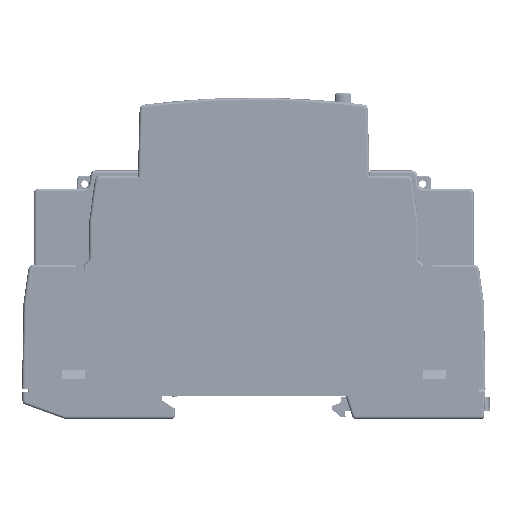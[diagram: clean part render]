
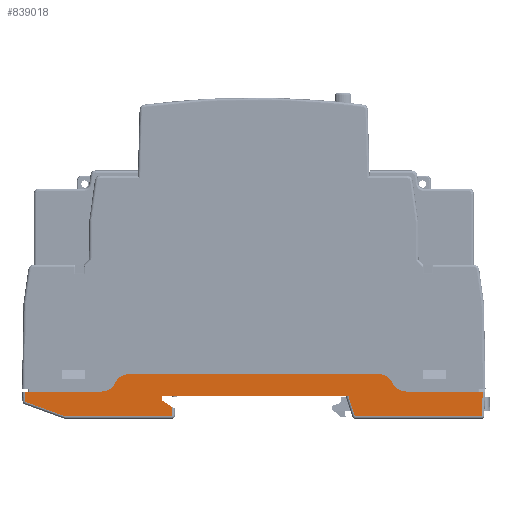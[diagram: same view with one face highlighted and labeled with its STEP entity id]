
A CAD part, left-side view. The second image highlights one B-rep face of the part: STEP entity #839018.
In plain terms, the highlighted planar face has unit normal (-1, 0, 0).
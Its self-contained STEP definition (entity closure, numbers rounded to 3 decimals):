
#26333=CIRCLE('',#889811,3.);
#26334=CIRCLE('',#889812,3.);
#26335=CIRCLE('',#889813,3.);
#26336=CIRCLE('',#889814,3.);
#73931=FACE_OUTER_BOUND('',#121422,.T.);
#121422=EDGE_LOOP('',(#563656,#563657,#563658,#563659,#563660,#563661,#563662,
#563663,#563664,#563665,#563666,#563667,#563668,#563669,#563670,#563671,
#563672));
#173633=LINE('',#1221705,#261654);
#173636=LINE('',#1221716,#261657);
#173639=LINE('',#1221725,#261660);
#173640=LINE('',#1221731,#261661);
#173641=LINE('',#1221737,#261662);
#173642=LINE('',#1221739,#261663);
#173643=LINE('',#1221741,#261664);
#173644=LINE('',#1221743,#261665);
#173645=LINE('',#1221745,#261666);
#173646=LINE('',#1221747,#261667);
#173647=LINE('',#1221749,#261668);
#173648=LINE('',#1221751,#261669);
#173649=LINE('',#1221752,#261670);
#261654=VECTOR('',#969964,10.);
#261657=VECTOR('',#969977,10.);
#261660=VECTOR('',#969986,10.);
#261661=VECTOR('',#969991,10.);
#261662=VECTOR('',#969996,10.);
#261663=VECTOR('',#969997,10.);
#261664=VECTOR('',#969998,10.);
#261665=VECTOR('',#969999,10.);
#261666=VECTOR('',#970000,10.);
#261667=VECTOR('',#970001,10.);
#261668=VECTOR('',#970002,10.);
#261669=VECTOR('',#970003,10.);
#261670=VECTOR('',#970004,10.);
#349529=VERTEX_POINT('',#1221698);
#349531=VERTEX_POINT('',#1221703);
#349533=VERTEX_POINT('',#1221709);
#349537=VERTEX_POINT('',#1221724);
#349538=VERTEX_POINT('',#1221726);
#349539=VERTEX_POINT('',#1221728);
#349540=VERTEX_POINT('',#1221730);
#349541=VERTEX_POINT('',#1221732);
#349542=VERTEX_POINT('',#1221734);
#349543=VERTEX_POINT('',#1221736);
#349544=VERTEX_POINT('',#1221738);
#349545=VERTEX_POINT('',#1221740);
#349546=VERTEX_POINT('',#1221742);
#349547=VERTEX_POINT('',#1221744);
#349548=VERTEX_POINT('',#1221746);
#349549=VERTEX_POINT('',#1221748);
#349550=VERTEX_POINT('',#1221750);
#434069=EDGE_CURVE('',#349531,#349529,#173633,.T.);
#434075=EDGE_CURVE('',#349529,#349533,#173636,.T.);
#434079=EDGE_CURVE('',#349531,#349537,#173639,.T.);
#434080=EDGE_CURVE('',#349537,#349538,#26333,.T.);
#434081=EDGE_CURVE('',#349539,#349538,#26334,.T.);
#434082=EDGE_CURVE('',#349539,#349540,#173640,.T.);
#434083=EDGE_CURVE('',#349541,#349540,#26335,.T.);
#434084=EDGE_CURVE('',#349541,#349542,#26336,.T.);
#434085=EDGE_CURVE('',#349542,#349543,#173641,.T.);
#434086=EDGE_CURVE('',#349544,#349543,#173642,.T.);
#434087=EDGE_CURVE('',#349545,#349544,#173643,.T.);
#434088=EDGE_CURVE('',#349546,#349545,#173644,.T.);
#434089=EDGE_CURVE('',#349547,#349546,#173645,.T.);
#434090=EDGE_CURVE('',#349548,#349547,#173646,.T.);
#434091=EDGE_CURVE('',#349549,#349548,#173647,.T.);
#434092=EDGE_CURVE('',#349550,#349549,#173648,.T.);
#434093=EDGE_CURVE('',#349533,#349550,#173649,.T.);
#563656=ORIENTED_EDGE('',*,*,#434075,.F.);
#563657=ORIENTED_EDGE('',*,*,#434069,.F.);
#563658=ORIENTED_EDGE('',*,*,#434079,.T.);
#563659=ORIENTED_EDGE('',*,*,#434080,.T.);
#563660=ORIENTED_EDGE('',*,*,#434081,.F.);
#563661=ORIENTED_EDGE('',*,*,#434082,.T.);
#563662=ORIENTED_EDGE('',*,*,#434083,.F.);
#563663=ORIENTED_EDGE('',*,*,#434084,.T.);
#563664=ORIENTED_EDGE('',*,*,#434085,.T.);
#563665=ORIENTED_EDGE('',*,*,#434086,.F.);
#563666=ORIENTED_EDGE('',*,*,#434087,.F.);
#563667=ORIENTED_EDGE('',*,*,#434088,.F.);
#563668=ORIENTED_EDGE('',*,*,#434089,.F.);
#563669=ORIENTED_EDGE('',*,*,#434090,.F.);
#563670=ORIENTED_EDGE('',*,*,#434091,.F.);
#563671=ORIENTED_EDGE('',*,*,#434092,.F.);
#563672=ORIENTED_EDGE('',*,*,#434093,.F.);
#810773=PLANE('',#889810);
#839018=ADVANCED_FACE('',(#73931),#810773,.F.);
#889810=AXIS2_PLACEMENT_3D('',#1221723,#969984,#969985);
#889811=AXIS2_PLACEMENT_3D('',#1221727,#969987,#969988);
#889812=AXIS2_PLACEMENT_3D('',#1221729,#969989,#969990);
#889813=AXIS2_PLACEMENT_3D('',#1221733,#969992,#969993);
#889814=AXIS2_PLACEMENT_3D('',#1221735,#969994,#969995);
#969964=DIRECTION('',(0.,0.052,-0.999));
#969977=DIRECTION('',(0.,1.,0.));
#969984=DIRECTION('center_axis',(1.,0.,0.));
#969985=DIRECTION('ref_axis',(0.,0.,-1.));
#969986=DIRECTION('',(0.,1.,0.));
#969987=DIRECTION('center_axis',(1.,0.,0.));
#969988=DIRECTION('ref_axis',(0.,0.,-1.));
#969989=DIRECTION('center_axis',(1.,0.,0.));
#969990=DIRECTION('ref_axis',(0.,0.,-1.));
#969991=DIRECTION('',(0.,1.,0.));
#969992=DIRECTION('center_axis',(1.,0.,0.));
#969993=DIRECTION('ref_axis',(0.,0.,-1.));
#969994=DIRECTION('center_axis',(1.,0.,0.));
#969995=DIRECTION('ref_axis',(0.,-0.94,-0.342));
#969996=DIRECTION('',(0.,1.,0.));
#969997=DIRECTION('',(0.,0.052,0.999));
#969998=DIRECTION('',(0.,0.94,0.342));
#969999=DIRECTION('',(0.,1.,0.));
#970000=DIRECTION('',(0.,0.017,-1.));
#970001=DIRECTION('',(0.,-0.844,-0.537));
#970002=DIRECTION('',(0.,0.017,-1.));
#970003=DIRECTION('',(0.,1.,0.));
#970004=DIRECTION('',(0.,0.309,0.951));
#1221698=CARTESIAN_POINT('',(-8.95,-44.232,0.5));
#1221703=CARTESIAN_POINT('',(-8.95,-44.483,5.3));
#1221705=CARTESIAN_POINT('',(-8.95,-44.723,9.872));
#1221709=CARTESIAN_POINT('',(-8.95,-19.645,0.5));
#1221716=CARTESIAN_POINT('',(-8.95,16.237,0.5));
#1221723=CARTESIAN_POINT('Origin',(-8.95,0.,23.));
#1221724=CARTESIAN_POINT('',(-8.95,-29.62,5.3));
#1221725=CARTESIAN_POINT('',(-8.95,-14.81,5.3));
#1221726=CARTESIAN_POINT('',(-8.95,-26.916,7.));
#1221727=CARTESIAN_POINT('Origin',(-8.95,-29.62,8.3));
#1221728=CARTESIAN_POINT('',(-8.95,-24.212,8.7));
#1221729=CARTESIAN_POINT('Origin',(-8.95,-24.212,5.7));
#1221730=CARTESIAN_POINT('',(-8.95,24.212,8.7));
#1221731=CARTESIAN_POINT('',(-8.95,13.141,8.7));
#1221732=CARTESIAN_POINT('',(-8.95,26.916,7.));
#1221733=CARTESIAN_POINT('Origin',(-8.95,24.212,5.7));
#1221734=CARTESIAN_POINT('',(-8.95,29.62,5.3));
#1221735=CARTESIAN_POINT('Origin',(-8.95,29.62,8.3));
#1221736=CARTESIAN_POINT('',(-8.95,44.519,5.3));
#1221737=CARTESIAN_POINT('',(-8.95,22.5,5.3));
#1221738=CARTESIAN_POINT('',(-8.95,44.415,3.319));
#1221739=CARTESIAN_POINT('',(-8.95,45.384,21.812));
#1221740=CARTESIAN_POINT('',(-8.95,36.669,0.5));
#1221741=CARTESIAN_POINT('',(-8.95,26.114,-3.342));
#1221742=CARTESIAN_POINT('',(-8.95,15.876,0.5));
#1221743=CARTESIAN_POINT('',(-8.95,16.237,0.5));
#1221744=CARTESIAN_POINT('',(-8.95,15.845,2.294));
#1221745=CARTESIAN_POINT('',(-8.95,15.677,11.885));
#1221746=CARTESIAN_POINT('',(-8.95,17.864,3.578));
#1221747=CARTESIAN_POINT('',(-8.95,17.864,3.578));
#1221748=CARTESIAN_POINT('',(-8.95,17.85,4.4));
#1221749=CARTESIAN_POINT('',(-8.95,17.693,13.403));
#1221750=CARTESIAN_POINT('',(-8.95,-18.376,4.4));
#1221751=CARTESIAN_POINT('',(-8.95,8.925,4.4));
#1221752=CARTESIAN_POINT('',(-8.95,-14.734,15.59));
